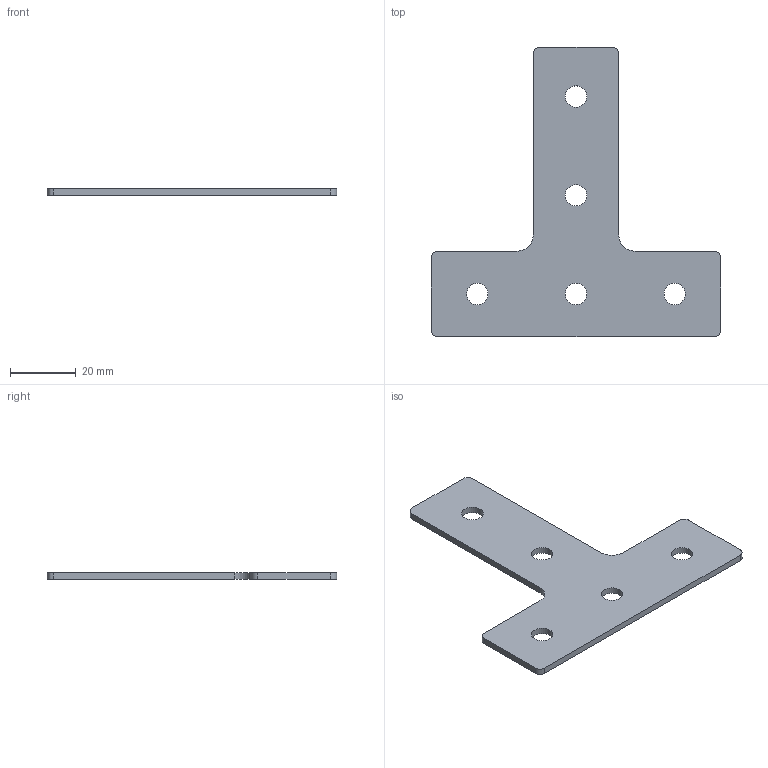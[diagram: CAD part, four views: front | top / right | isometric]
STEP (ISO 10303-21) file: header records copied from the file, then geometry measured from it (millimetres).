
FILE_DESCRIPTION(/* description */ ('Unknown'),/* implementation_level */ '2;1');
FILE_NAME(/* name */ 'CJP3030T',/* time_stamp */ '2018-12-06T15:03:32+00:00',/* author */ ('Unknown'),/* organization */ ('Unknown'),/* preprocessor_version */ 'ST-DEVELOPER v16.7',/* originating_system */ 'DEX',/* authorisation */ $);
FILE_SCHEMA (('AUTOMOTIVE_DESIGN {1 0 10303 214 3 1 1}'));
Length unit declared in the file: millimetre
Products named in the file (1): CJP3030T
Bounding box: 88 x 88 x 2 mm (x, y, z)
Volume: 7479.3 mm3; surface area: 8368.6 mm2
Topology: 1 solids, 1 shells, 23 faces, 63 edges, 42 vertices
Faces by surface type: cylinder 13, plane 10
Full cylindrical faces by diameter (mm): 6.5 x5
Entity records: 768 total; most frequent: DIRECTION 132, CARTESIAN_POINT 124, ORIENTED_EDGE 116, EDGE_CURVE 58, AXIS2_PLACEMENT_3D 50, VERTEX_POINT 42, EDGE_LOOP 38, FACE_BOUND 38
